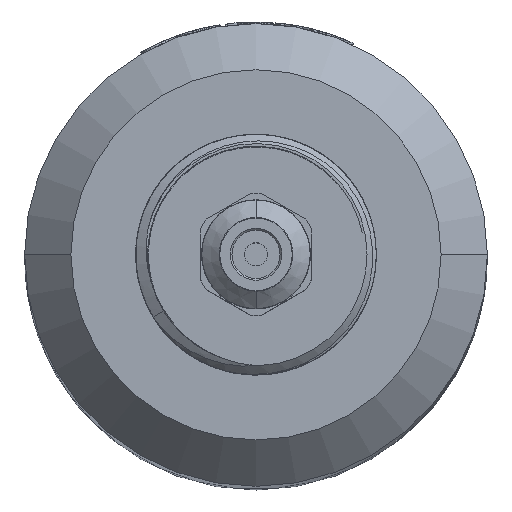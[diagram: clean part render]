
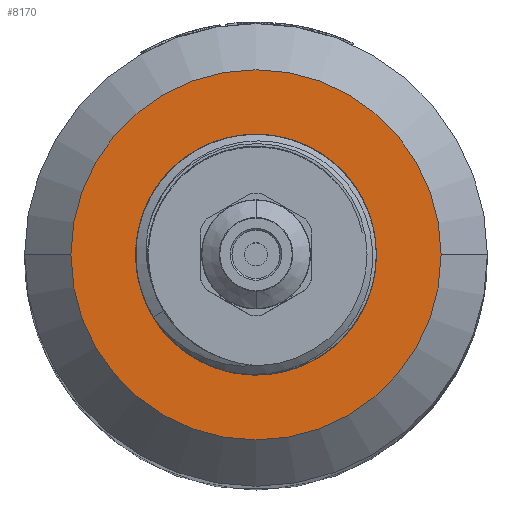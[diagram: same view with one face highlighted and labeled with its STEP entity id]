
A CAD part, top view. The second image highlights one B-rep face of the part: STEP entity #8170.
In plain terms, the highlighted planar face has unit normal (0, 0, 1).
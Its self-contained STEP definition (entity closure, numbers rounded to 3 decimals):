
#1615=CARTESIAN_POINT('',(0.,0.,117.5));
#1616=DIRECTION('',(0.,0.,1.));
#1617=DIRECTION('',(1.,0.,0.));
#1618=AXIS2_PLACEMENT_3D('',#1615,#1616,#1617);
#1620=CARTESIAN_POINT('',(0.,0.,117.5));
#1621=DIRECTION('',(0.,0.,1.));
#1622=DIRECTION('',(-1.,0.,0.));
#1623=AXIS2_PLACEMENT_3D('',#1620,#1621,#1622);
#1625=CARTESIAN_POINT('',(0.,0.,117.5));
#1626=DIRECTION('',(0.,0.,1.));
#1627=DIRECTION('',(-1.,0.,0.));
#1628=AXIS2_PLACEMENT_3D('',#1625,#1626,#1627);
#1630=CARTESIAN_POINT('',(0.,0.,117.5));
#1631=DIRECTION('',(0.,0.,1.));
#1632=DIRECTION('',(1.,0.,0.));
#1633=AXIS2_PLACEMENT_3D('',#1630,#1631,#1632);
#6499=CARTESIAN_POINT('',(11.,0.,117.5));
#6500=CARTESIAN_POINT('',(-11.,0.,117.5));
#6501=VERTEX_POINT('',#6499);
#6502=VERTEX_POINT('',#6500);
#6554=CARTESIAN_POINT('',(-20.,0.,117.5));
#6555=CARTESIAN_POINT('',(20.,0.,117.5));
#6556=VERTEX_POINT('',#6554);
#6557=VERTEX_POINT('',#6555);
#8154=CARTESIAN_POINT('',(0.,0.,117.5));
#8155=DIRECTION('',(0.,0.,1.));
#8156=DIRECTION('',(1.,0.,0.));
#8157=AXIS2_PLACEMENT_3D('',#8154,#8155,#8156);
#8158=PLANE('',#8157);
#8160=ORIENTED_EDGE('',*,*,#8159,.F.);
#8161=ORIENTED_EDGE('',*,*,#8144,.F.);
#8162=EDGE_LOOP('',(#8160,#8161));
#8163=FACE_OUTER_BOUND('',#8162,.F.);
#8165=ORIENTED_EDGE('',*,*,#8164,.T.);
#8167=ORIENTED_EDGE('',*,*,#8166,.T.);
#8168=EDGE_LOOP('',(#8165,#8167));
#8169=FACE_BOUND('',#8168,.F.);
#8170=ADVANCED_FACE('',(#8163,#8169),#8158,.T.);
#1619=CIRCLE('',#1618,11.);
#1624=CIRCLE('',#1623,11.);
#1629=CIRCLE('',#1628,20.);
#1634=CIRCLE('',#1633,20.);
#8144=EDGE_CURVE('',#6557,#6556,#1634,.T.);
#8159=EDGE_CURVE('',#6556,#6557,#1629,.T.);
#8164=EDGE_CURVE('',#6501,#6502,#1619,.T.);
#8166=EDGE_CURVE('',#6502,#6501,#1624,.T.);
